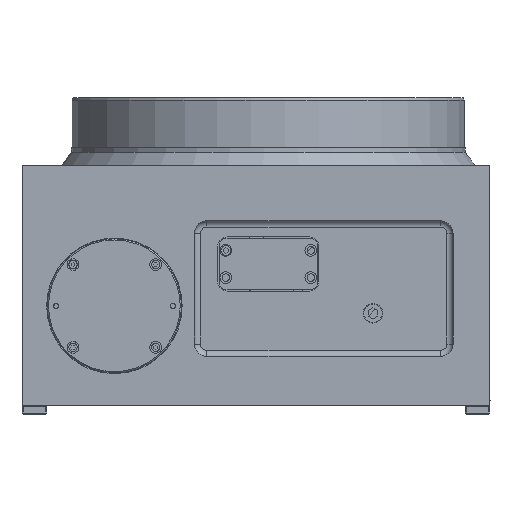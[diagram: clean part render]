
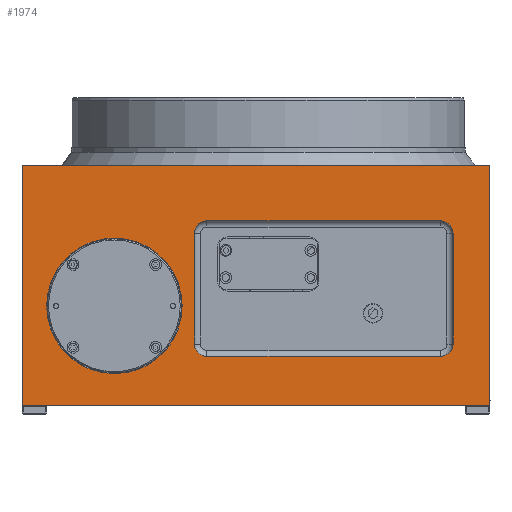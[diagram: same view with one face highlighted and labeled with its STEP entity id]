
A CAD part, left-side view. The second image highlights one B-rep face of the part: STEP entity #1974.
In plain terms, the highlighted planar face has unit normal (-1, 0, 0).
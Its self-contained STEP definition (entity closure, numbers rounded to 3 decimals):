
#181 = FACE_OUTER_BOUND ( 'NONE', #4213, .T. ) ;
#186 = AXIS2_PLACEMENT_3D ( 'NONE', #12392, #2606, #6984 ) ;
#274 = CIRCLE ( 'NONE', #9430, 10. ) ;
#433 = ORIENTED_EDGE ( 'NONE', *, *, #9041, .F. ) ;
#577 = CARTESIAN_POINT ( 'NONE',  ( -180., 50., -41. ) ) ;
#681 = LINE ( 'NONE', #2899, #11580 ) ;
#748 = CARTESIAN_POINT ( 'NONE',  ( -180., -150., -31. ) ) ;
#810 = VECTOR ( 'NONE', #7189, 1000. ) ;
#818 = CARTESIAN_POINT ( 'NONE',  ( -180., 50., -31. ) ) ;
#825 = EDGE_CURVE ( 'NONE', #13582, #13582, #10901, .T. ) ;
#997 = DIRECTION ( 'NONE',  ( 0., 0., 1. ) ) ;
#1186 = CARTESIAN_POINT ( 'NONE',  ( -180., 50., 69. ) ) ;
#1339 = VECTOR ( 'NONE', #12555, 1000. ) ;
#1346 = VECTOR ( 'NONE', #9499, 1000. ) ;
#1415 = EDGE_CURVE ( 'NONE', #6024, #6001, #7944, .T. ) ;
#1513 = EDGE_CURVE ( 'NONE', #13063, #9474, #681, .T. ) ;
#1525 = ORIENTED_EDGE ( 'NONE', *, *, #8529, .F. ) ;
#1719 = CARTESIAN_POINT ( 'NONE',  ( -180., 200., 114. ) ) ;
#1940 = CARTESIAN_POINT ( 'NONE',  ( -180., -180., -81. ) ) ;
#1974 = ADVANCED_FACE ( 'NONE', ( #4406, #11044, #181 ), #10040, .T. ) ;
#2423 = VECTOR ( 'NONE', #6892, 1000. ) ;
#2579 = VECTOR ( 'NONE', #4376, 1000. ) ;
#2606 = DIRECTION ( 'NONE',  ( -1., 0., 0. ) ) ;
#2608 = CIRCLE ( 'NONE', #9488, 10. ) ;
#2657 = EDGE_CURVE ( 'NONE', #11530, #13063, #10503, .T. ) ;
#2899 = CARTESIAN_POINT ( 'NONE',  ( -180., -180., -81. ) ) ;
#3010 = EDGE_CURVE ( 'NONE', #7478, #6024, #4908, .T. ) ;
#3862 = CARTESIAN_POINT ( 'NONE',  ( -180., 200., -81. ) ) ;
#3906 = LINE ( 'NONE', #8265, #810 ) ;
#3997 = VECTOR ( 'NONE', #11542, 1000. ) ;
#4083 = ORIENTED_EDGE ( 'NONE', *, *, #5240, .F. ) ;
#4126 = ORIENTED_EDGE ( 'NONE', *, *, #13119, .F. ) ;
#4213 = EDGE_LOOP ( 'NONE', ( #13290, #4445, #7495, #4126 ) ) ;
#4263 = DIRECTION ( 'NONE',  ( 0., 1., 0. ) ) ;
#4376 = DIRECTION ( 'NONE',  ( 0., -1., 0. ) ) ;
#4406 = FACE_BOUND ( 'NONE', #11380, .T. ) ;
#4445 = ORIENTED_EDGE ( 'NONE', *, *, #1513, .T. ) ;
#4547 = DIRECTION ( 'NONE',  ( 0., -1., 0. ) ) ;
#4824 = LINE ( 'NONE', #13388, #2423 ) ;
#4871 = VERTEX_POINT ( 'NONE', #5350 ) ;
#4908 = LINE ( 'NONE', #748, #1346 ) ;
#4966 = CIRCLE ( 'NONE', #6545, 10. ) ;
#5194 = ORIENTED_EDGE ( 'NONE', *, *, #10887, .F. ) ;
#5240 = EDGE_CURVE ( 'NONE', #4871, #14131, #274, .T. ) ;
#5350 = CARTESIAN_POINT ( 'NONE',  ( -180., 60., -31. ) ) ;
#5611 = DIRECTION ( 'NONE',  ( -1., 0., 0. ) ) ;
#5669 = ORIENTED_EDGE ( 'NONE', *, *, #12297, .F. ) ;
#5742 = CARTESIAN_POINT ( 'NONE',  ( -180., -140., -31. ) ) ;
#5961 = CARTESIAN_POINT ( 'NONE',  ( -180., 60., 59. ) ) ;
#6001 = VERTEX_POINT ( 'NONE', #7297 ) ;
#6024 = VERTEX_POINT ( 'NONE', #10650 ) ;
#6096 = AXIS2_PLACEMENT_3D ( 'NONE', #13901, #8408, #11738 ) ;
#6332 = VECTOR ( 'NONE', #997, 1000. ) ;
#6365 = LINE ( 'NONE', #9743, #6332 ) ;
#6545 = AXIS2_PLACEMENT_3D ( 'NONE', #6799, #13373, #7751 ) ;
#6799 = CARTESIAN_POINT ( 'NONE',  ( -180., 50., 59. ) ) ;
#6892 = DIRECTION ( 'NONE',  ( 0., 1., 0. ) ) ;
#6984 = DIRECTION ( 'NONE',  ( 0., 1., 0. ) ) ;
#7189 = DIRECTION ( 'NONE',  ( 0., -1., 0. ) ) ;
#7297 = CARTESIAN_POINT ( 'NONE',  ( -180., -140., 69. ) ) ;
#7351 = LINE ( 'NONE', #11619, #3997 ) ;
#7478 = VERTEX_POINT ( 'NONE', #12634 ) ;
#7495 = ORIENTED_EDGE ( 'NONE', *, *, #10191, .F. ) ;
#7502 = AXIS2_PLACEMENT_3D ( 'NONE', #11902, #10833, #4547 ) ;
#7751 = DIRECTION ( 'NONE',  ( 0., 1., 0. ) ) ;
#7914 = CARTESIAN_POINT ( 'NONE',  ( -180., -180., 114. ) ) ;
#7944 = CIRCLE ( 'NONE', #186, 10. ) ;
#8265 = CARTESIAN_POINT ( 'NONE',  ( -180., 50., -41. ) ) ;
#8408 = DIRECTION ( 'NONE',  ( -1., 0., 0. ) ) ;
#8529 = EDGE_CURVE ( 'NONE', #14131, #11882, #3906, .T. ) ;
#8549 = DIRECTION ( 'NONE',  ( -1., 0., 0. ) ) ;
#9041 = EDGE_CURVE ( 'NONE', #11882, #7478, #2608, .T. ) ;
#9203 = CARTESIAN_POINT ( 'NONE',  ( -180., -140., -41. ) ) ;
#9430 = AXIS2_PLACEMENT_3D ( 'NONE', #818, #8549, #4263 ) ;
#9432 = VERTEX_POINT ( 'NONE', #1186 ) ;
#9474 = VERTEX_POINT ( 'NONE', #7914 ) ;
#9488 = AXIS2_PLACEMENT_3D ( 'NONE', #5742, #5611, #13232 ) ;
#9499 = DIRECTION ( 'NONE',  ( 0., 0., 1. ) ) ;
#9545 = CARTESIAN_POINT ( 'NONE',  ( -180., 125., 55. ) ) ;
#9743 = CARTESIAN_POINT ( 'NONE',  ( -180., 200., -81. ) ) ;
#9812 = CARTESIAN_POINT ( 'NONE',  ( -180., 200., 114. ) ) ;
#10040 = PLANE ( 'NONE',  #7502 ) ;
#10191 = EDGE_CURVE ( 'NONE', #12907, #9474, #10952, .T. ) ;
#10503 = LINE ( 'NONE', #10568, #1339 ) ;
#10557 = DIRECTION ( 'NONE',  ( 0., 0., 1. ) ) ;
#10568 = CARTESIAN_POINT ( 'NONE',  ( -180., 200., -81. ) ) ;
#10650 = CARTESIAN_POINT ( 'NONE',  ( -180., -150., 59. ) ) ;
#10833 = DIRECTION ( 'NONE',  ( -1., 0., 0. ) ) ;
#10887 = EDGE_CURVE ( 'NONE', #13719, #4871, #7351, .T. ) ;
#10901 = CIRCLE ( 'NONE', #6096, 55. ) ;
#10952 = LINE ( 'NONE', #9812, #2579 ) ;
#11002 = ORIENTED_EDGE ( 'NONE', *, *, #3010, .F. ) ;
#11044 = FACE_BOUND ( 'NONE', #11532, .T. ) ;
#11376 = ORIENTED_EDGE ( 'NONE', *, *, #825, .F. ) ;
#11380 = EDGE_LOOP ( 'NONE', ( #13659, #5669, #12047, #11002, #433, #1525, #4083, #5194 ) ) ;
#11530 = VERTEX_POINT ( 'NONE', #3862 ) ;
#11532 = EDGE_LOOP ( 'NONE', ( #11376 ) ) ;
#11542 = DIRECTION ( 'NONE',  ( 0., 0., -1. ) ) ;
#11580 = VECTOR ( 'NONE', #10557, 1000. ) ;
#11619 = CARTESIAN_POINT ( 'NONE',  ( -180., 60., -31. ) ) ;
#11738 = DIRECTION ( 'NONE',  ( 0., 0., 1. ) ) ;
#11882 = VERTEX_POINT ( 'NONE', #9203 ) ;
#11902 = CARTESIAN_POINT ( 'NONE',  ( -180., 200., -81. ) ) ;
#12047 = ORIENTED_EDGE ( 'NONE', *, *, #1415, .F. ) ;
#12297 = EDGE_CURVE ( 'NONE', #6001, #9432, #4824, .T. ) ;
#12392 = CARTESIAN_POINT ( 'NONE',  ( -180., -140., 59. ) ) ;
#12555 = DIRECTION ( 'NONE',  ( 0., -1., 0. ) ) ;
#12634 = CARTESIAN_POINT ( 'NONE',  ( -180., -150., -31. ) ) ;
#12785 = EDGE_CURVE ( 'NONE', #9432, #13719, #4966, .T. ) ;
#12907 = VERTEX_POINT ( 'NONE', #1719 ) ;
#13063 = VERTEX_POINT ( 'NONE', #1940 ) ;
#13119 = EDGE_CURVE ( 'NONE', #11530, #12907, #6365, .T. ) ;
#13232 = DIRECTION ( 'NONE',  ( 0., -1., 0. ) ) ;
#13290 = ORIENTED_EDGE ( 'NONE', *, *, #2657, .T. ) ;
#13373 = DIRECTION ( 'NONE',  ( -1., 0., 0. ) ) ;
#13388 = CARTESIAN_POINT ( 'NONE',  ( -180., 50., 69. ) ) ;
#13582 = VERTEX_POINT ( 'NONE', #9545 ) ;
#13659 = ORIENTED_EDGE ( 'NONE', *, *, #12785, .F. ) ;
#13719 = VERTEX_POINT ( 'NONE', #5961 ) ;
#13901 = CARTESIAN_POINT ( 'NONE',  ( -180., 125., 0. ) ) ;
#14131 = VERTEX_POINT ( 'NONE', #577 ) ;
